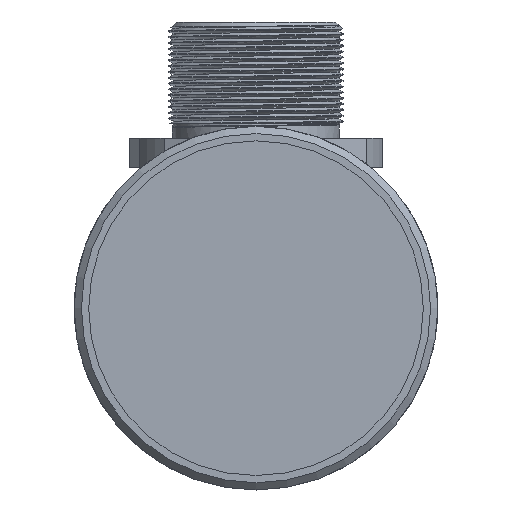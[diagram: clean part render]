
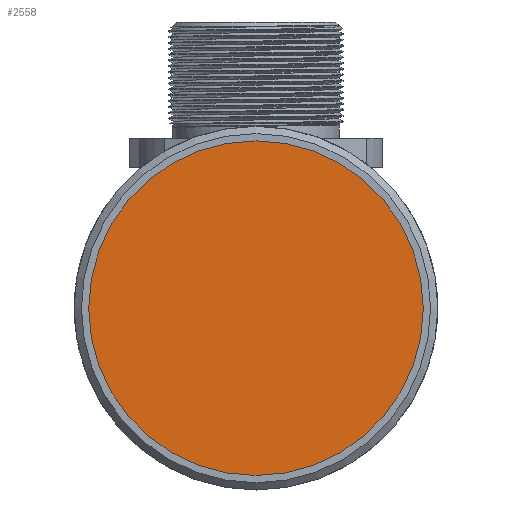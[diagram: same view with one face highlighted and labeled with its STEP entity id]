
A CAD part, left-side view. The second image highlights one B-rep face of the part: STEP entity #2558.
In plain terms, the highlighted planar face has unit normal (-1, 0, 0).
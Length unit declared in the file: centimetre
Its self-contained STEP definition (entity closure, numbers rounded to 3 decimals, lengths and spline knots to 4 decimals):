
#971=PLANE('',#2715);
#1034=VERTEX_POINT('',#2913);
#1222=CIRCLE('',#2713,1.15);
#1301=EDGE_CURVE('',#1034,#1034,#1222,.T.);
#1599=ORIENTED_EDGE('',*,*,#1301,.T.);
#2169=EDGE_LOOP('',(#1599));
#2365=FACE_BOUND('',#2169,.T.);
#2558=ADVANCED_FACE('',(#2365),#971,.T.);
#2713=AXIS2_PLACEMENT_3D('',#2912,#14135,#14136);
#2715=AXIS2_PLACEMENT_3D('',#2916,#14139,$);
#2912=CARTESIAN_POINT('',(0.1,0.,0.));
#2913=CARTESIAN_POINT('',(0.1,0.,1.15));
#2916=CARTESIAN_POINT('',(0.1,0.,0.));
#14135=DIRECTION('',(-1.,0.,0.));
#14136=DIRECTION('',(0.,0.,1.15));
#14139=DIRECTION('',(-1.,0.,0.));
